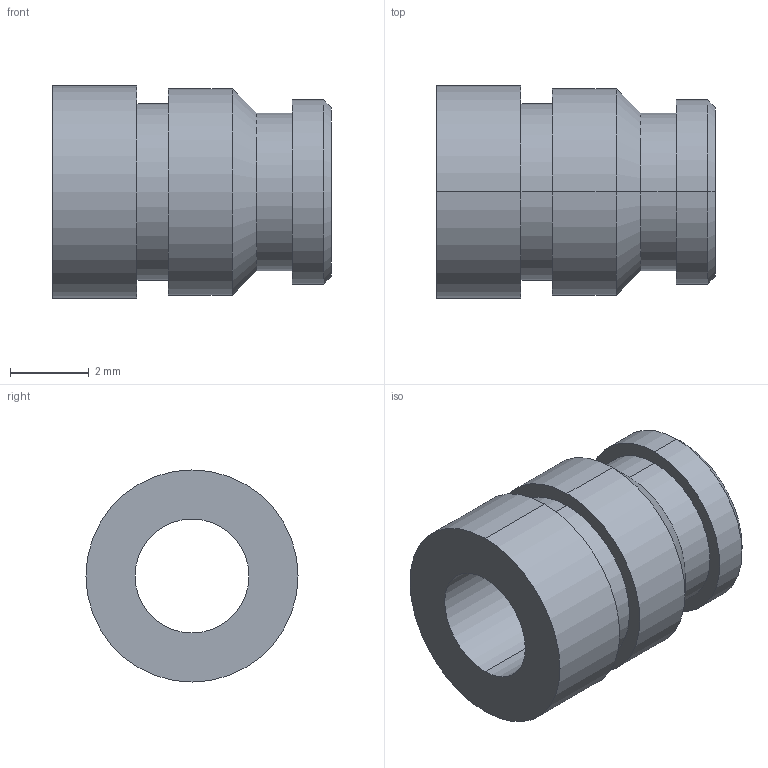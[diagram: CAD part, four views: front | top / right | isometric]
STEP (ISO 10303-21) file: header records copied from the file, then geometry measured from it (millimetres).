
FILE_DESCRIPTION (( 'STEP AP203' ), '1' );
FILE_NAME ('FSUK-HIS-M03.5-S.STEP', '2021-04-15T08:41:05', ( '' ), ( '' ), 'SwSTEP 2.0', 'SolidWorks 2021', '' );
FILE_SCHEMA (( 'CONFIG_CONTROL_DESIGN' ));
Length unit declared in the file: millimetre
Products named in the file (1): FSUK-HIS-M03.5-S
Bounding box: 7.1 x 5.4 x 5.4 mm (x, y, z)
Volume: 88.7 mm3; surface area: 219.5 mm2
Topology: 1 solids, 1 shells, 23 faces, 46 edges, 28 vertices
Faces by surface type: cylinder 12, cone 6, plane 5
Entity records: 685 total; most frequent: DIRECTION 122, CARTESIAN_POINT 98, ORIENTED_EDGE 92, AXIS2_PLACEMENT_3D 52, EDGE_CURVE 46, CIRCLE 28, EDGE_LOOP 28, VERTEX_POINT 28
